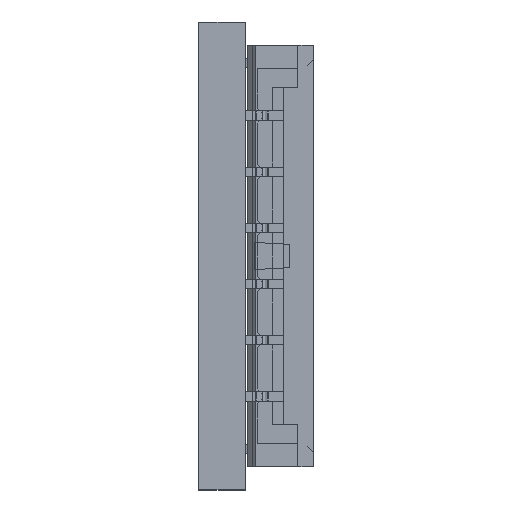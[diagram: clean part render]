
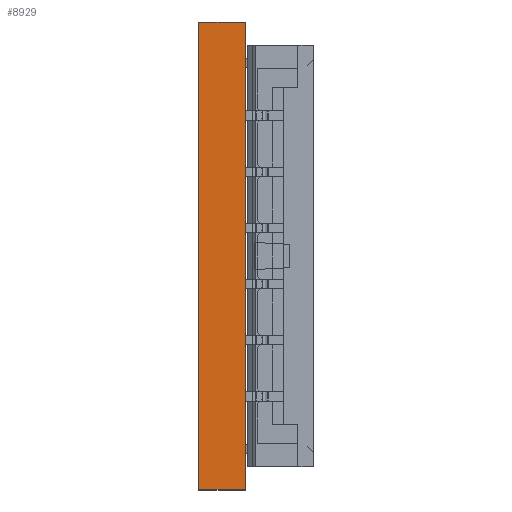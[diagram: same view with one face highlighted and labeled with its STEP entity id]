
A CAD part, left-side view. The second image highlights one B-rep face of the part: STEP entity #8929.
In plain terms, the highlighted planar face has unit normal (-1, 0, 0).
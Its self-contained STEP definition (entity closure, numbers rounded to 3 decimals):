
#138 = ORIENTED_EDGE ( 'NONE', *, *, #5772, .F. ) ;
#820 = VECTOR ( 'NONE', #4960, 1000. ) ;
#1007 = LINE ( 'NONE', #1590, #3368 ) ;
#1230 = CARTESIAN_POINT ( 'NONE',  ( -92., 0., -5. ) ) ;
#1354 = LINE ( 'NONE', #2075, #820 ) ;
#1412 = VECTOR ( 'NONE', #2107, 1000. ) ;
#1590 = CARTESIAN_POINT ( 'NONE',  ( -92., -1., -5. ) ) ;
#2075 = CARTESIAN_POINT ( 'NONE',  ( -92., -1., 5. ) ) ;
#2107 = DIRECTION ( 'NONE',  ( 0., 0., 1. ) ) ;
#2133 = VERTEX_POINT ( 'NONE', #4103 ) ;
#2795 = CARTESIAN_POINT ( 'NONE',  ( -92., -1., 5. ) ) ;
#3236 = VERTEX_POINT ( 'NONE', #1230 ) ;
#3368 = VECTOR ( 'NONE', #8063, 1000. ) ;
#3601 = PLANE ( 'NONE',  #5697 ) ;
#3702 = DIRECTION ( 'NONE',  ( -1., 0., 0. ) ) ;
#4103 = CARTESIAN_POINT ( 'NONE',  ( -92., 0., 5. ) ) ;
#4387 = CARTESIAN_POINT ( 'NONE',  ( -92., -1., 5. ) ) ;
#4402 = LINE ( 'NONE', #2795, #1412 ) ;
#4526 = ORIENTED_EDGE ( 'NONE', *, *, #6870, .T. ) ;
#4567 = CARTESIAN_POINT ( 'NONE',  ( -92., -1., 5. ) ) ;
#4960 = DIRECTION ( 'NONE',  ( 0., 1., 0. ) ) ;
#5592 = DIRECTION ( 'NONE',  ( 0., 0., 1. ) ) ;
#5644 = CARTESIAN_POINT ( 'NONE',  ( -92., 0., 5. ) ) ;
#5683 = VERTEX_POINT ( 'NONE', #6805 ) ;
#5697 = AXIS2_PLACEMENT_3D ( 'NONE', #4387, #3702, #5592 ) ;
#5735 = DIRECTION ( 'NONE',  ( 0., 0., 1. ) ) ;
#5772 = EDGE_CURVE ( 'NONE', #3236, #2133, #8495, .T. ) ;
#5897 = ORIENTED_EDGE ( 'NONE', *, *, #7270, .T. ) ;
#5948 = ORIENTED_EDGE ( 'NONE', *, *, #7827, .F. ) ;
#6668 = VERTEX_POINT ( 'NONE', #4567 ) ;
#6805 = CARTESIAN_POINT ( 'NONE',  ( -92., -1., -5. ) ) ;
#6870 = EDGE_CURVE ( 'NONE', #6668, #2133, #1354, .T. ) ;
#7054 = EDGE_LOOP ( 'NONE', ( #138, #5948, #5897, #4526 ) ) ;
#7270 = EDGE_CURVE ( 'NONE', #5683, #6668, #4402, .T. ) ;
#7299 = VECTOR ( 'NONE', #5735, 1000. ) ;
#7827 = EDGE_CURVE ( 'NONE', #5683, #3236, #1007, .T. ) ;
#7883 = FACE_OUTER_BOUND ( 'NONE', #7054, .T. ) ;
#8063 = DIRECTION ( 'NONE',  ( 0., 1., 0. ) ) ;
#8495 = LINE ( 'NONE', #5644, #7299 ) ;
#8929 = ADVANCED_FACE ( 'NONE', ( #7883 ), #3601, .T. ) ;
